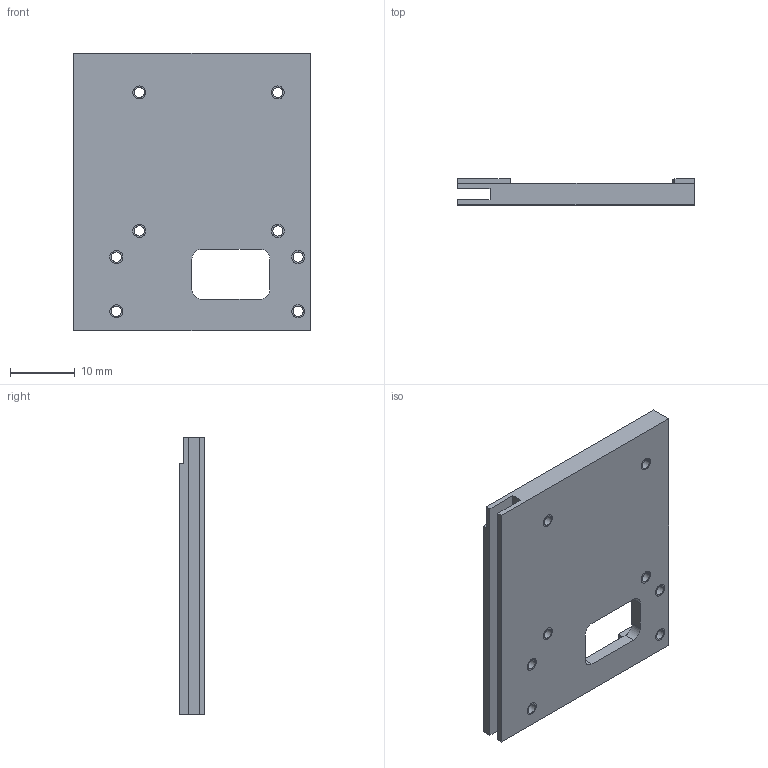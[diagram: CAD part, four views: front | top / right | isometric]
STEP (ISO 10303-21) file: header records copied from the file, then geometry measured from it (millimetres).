
FILE_DESCRIPTION(/* description */ ('VariCAD 2008 1.04 AP-203'),/* implementation_level */ '2;1');
FILE_NAME(/* name */ '0353-19-03',/* time_stamp */ '2008-07-10T19:03:55-06:00',/* author */ (''),/* organization */ (''),/* preprocessor_version */ 'ST-DEVELOPER v10',/* originating_system */ 'VariCAD 2008 1.04; kernel version (20071230)',/* authorisation */ '');
FILE_SCHEMA (('CONFIG_CONTROL_DESIGN'));
Length unit declared in the file: millimetre
Products named in the file (1): Part
Bounding box: 36.5 x 4 x 42.75 mm (x, y, z)
Volume: 3189.2 mm3; surface area: 4734.2 mm2
Topology: 9 solids, 9 shells, 167 faces, 406 edges, 248 vertices
Faces by surface type: cylinder 73, plane 62, cone 32
Entity records: 5002 total; most frequent: DIRECTION 920, CARTESIAN_POINT 831, ORIENTED_EDGE 812, EDGE_CURVE 406, AXIS2_PLACEMENT_3D 337, VERTEX_POINT 248, LINE 246, VECTOR 246
